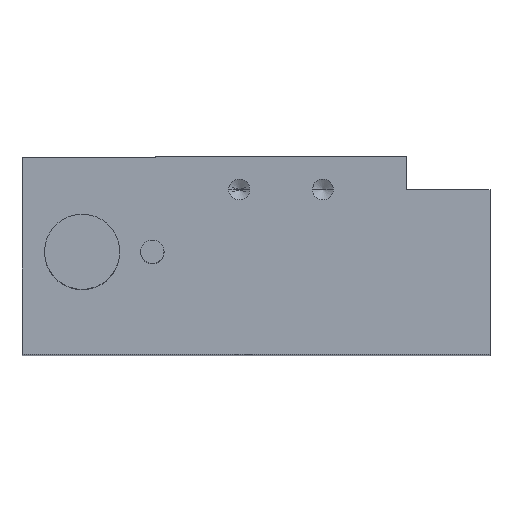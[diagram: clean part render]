
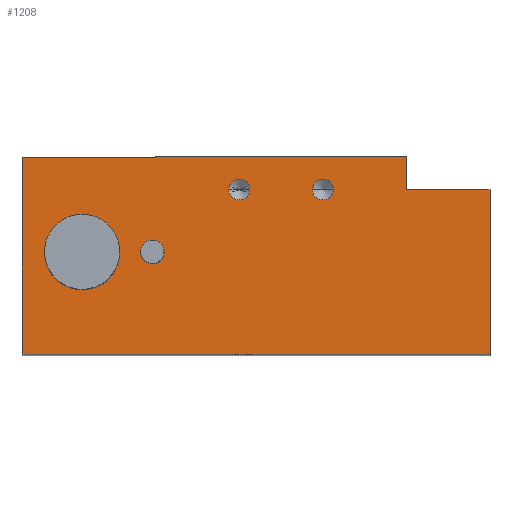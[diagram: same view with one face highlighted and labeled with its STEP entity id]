
A CAD part, top view. The second image highlights one B-rep face of the part: STEP entity #1208.
In plain terms, the highlighted planar face has unit normal (0, 0, 1).
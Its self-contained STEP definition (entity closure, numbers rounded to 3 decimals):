
#5 = EDGE_CURVE ( 'NONE', #1249, #885, #349, .T. ) ;
#8 = VERTEX_POINT ( 'NONE', #13 ) ;
#9 = CARTESIAN_POINT ( 'NONE',  ( 88.647, 639.922, 0. ) ) ;
#13 = CARTESIAN_POINT ( 'NONE',  ( 105.647, 652.122, 0. ) ) ;
#35 = VECTOR ( 'NONE', #75, 1000. ) ;
#40 = DIRECTION ( 'NONE',  ( 1., 0., 0. ) ) ;
#44 = CARTESIAN_POINT ( 'NONE',  ( 114.647, 659.622, 0. ) ) ;
#57 = VERTEX_POINT ( 'NONE', #209 ) ;
#60 = ORIENTED_EDGE ( 'NONE', *, *, #215, .T. ) ;
#75 = DIRECTION ( 'NONE',  ( -1., 0., 0. ) ) ;
#76 = ORIENTED_EDGE ( 'NONE', *, *, #520, .T. ) ;
#82 = CIRCLE ( 'NONE', #507, 1.25 ) ;
#86 = ORIENTED_EDGE ( 'NONE', *, *, #114, .F. ) ;
#91 = VERTEX_POINT ( 'NONE', #668 ) ;
#100 = CARTESIAN_POINT ( 'NONE',  ( 104.647, 663.422, 0. ) ) ;
#107 = CARTESIAN_POINT ( 'NONE',  ( 144.647, 659.622, 0. ) ) ;
#114 = EDGE_CURVE ( 'NONE', #1270, #8, #749, .T. ) ;
#119 = ORIENTED_EDGE ( 'NONE', *, *, #1010, .F. ) ;
#126 = CARTESIAN_POINT ( 'NONE',  ( 134.647, 663.622, 0. ) ) ;
#127 = EDGE_LOOP ( 'NONE', ( #86, #975 ) ) ;
#128 = CARTESIAN_POINT ( 'NONE',  ( 104.247, 652.122, 0. ) ) ;
#130 = AXIS2_PLACEMENT_3D ( 'NONE', #954, #314, #1047 ) ;
#139 = ORIENTED_EDGE ( 'NONE', *, *, #5, .T. ) ;
#140 = EDGE_CURVE ( 'NONE', #91, #214, #461, .T. ) ;
#142 = PLANE ( 'NONE',  #524 ) ;
#146 = DIRECTION ( 'NONE',  ( 1., 0., 0. ) ) ;
#147 = VERTEX_POINT ( 'NONE', #335 ) ;
#148 = VERTEX_POINT ( 'NONE', #250 ) ;
#152 = CARTESIAN_POINT ( 'NONE',  ( 88.647, 639.922, 0. ) ) ;
#175 = CARTESIAN_POINT ( 'NONE',  ( 144.647, 639.922, 0. ) ) ;
#193 = FACE_OUTER_BOUND ( 'NONE', #200, .T. ) ;
#200 = EDGE_LOOP ( 'NONE', ( #282, #60, #212, #910, #339, #76, #942, #139 ) ) ;
#209 = CARTESIAN_POINT ( 'NONE',  ( 91.347, 652.122, 0. ) ) ;
#212 = ORIENTED_EDGE ( 'NONE', *, *, #1252, .T. ) ;
#214 = VERTEX_POINT ( 'NONE', #919 ) ;
#215 = EDGE_CURVE ( 'NONE', #148, #644, #233, .T. ) ;
#226 = FACE_BOUND ( 'NONE', #127, .T. ) ;
#229 = CARTESIAN_POINT ( 'NONE',  ( 113.397, 659.622, 0. ) ) ;
#231 = DIRECTION ( 'NONE',  ( 1., 0., 0. ) ) ;
#233 = LINE ( 'NONE', #1120, #35 ) ;
#238 = DIRECTION ( 'NONE',  ( 0., 0., 1. ) ) ;
#250 = CARTESIAN_POINT ( 'NONE',  ( 144.647, 659.622, 0. ) ) ;
#254 = DIRECTION ( 'NONE',  ( 1., 0., 0. ) ) ;
#272 = VERTEX_POINT ( 'NONE', #933 ) ;
#282 = ORIENTED_EDGE ( 'NONE', *, *, #452, .T. ) ;
#284 = VECTOR ( 'NONE', #1097, 1000. ) ;
#308 = CARTESIAN_POINT ( 'NONE',  ( 88.647, 663.422, 0. ) ) ;
#311 = VECTOR ( 'NONE', #575, 1000. ) ;
#312 = AXIS2_PLACEMENT_3D ( 'NONE', #1298, #666, #40 ) ;
#314 = DIRECTION ( 'NONE',  ( 0., 0., 1. ) ) ;
#325 = CIRCLE ( 'NONE', #577, 1.25 ) ;
#335 = CARTESIAN_POINT ( 'NONE',  ( 115.897, 659.622, 0. ) ) ;
#336 = CARTESIAN_POINT ( 'NONE',  ( 104.647, 663.422, 0. ) ) ;
#339 = ORIENTED_EDGE ( 'NONE', *, *, #890, .T. ) ;
#341 = LINE ( 'NONE', #1098, #311 ) ;
#349 = LINE ( 'NONE', #9, #284 ) ;
#353 = DIRECTION ( 'NONE',  ( 1., 0., 0. ) ) ;
#362 = DIRECTION ( 'NONE',  ( 0., 0., 1. ) ) ;
#386 = ORIENTED_EDGE ( 'NONE', *, *, #1201, .F. ) ;
#411 = CARTESIAN_POINT ( 'NONE',  ( 88.647, 663.422, 0. ) ) ;
#420 = DIRECTION ( 'NONE',  ( 1., 0., 0. ) ) ;
#439 = DIRECTION ( 'NONE',  ( -1., 0., 0. ) ) ;
#440 = FACE_BOUND ( 'NONE', #518, .T. ) ;
#452 = EDGE_CURVE ( 'NONE', #885, #148, #1028, .T. ) ;
#456 = ORIENTED_EDGE ( 'NONE', *, *, #675, .F. ) ;
#461 = CIRCLE ( 'NONE', #474, 1.25 ) ;
#464 = EDGE_LOOP ( 'NONE', ( #950, #514 ) ) ;
#468 = CARTESIAN_POINT ( 'NONE',  ( 102.847, 652.122, 0. ) ) ;
#474 = AXIS2_PLACEMENT_3D ( 'NONE', #1324, #1100, #420 ) ;
#507 = AXIS2_PLACEMENT_3D ( 'NONE', #44, #788, #146 ) ;
#511 = DIRECTION ( 'NONE',  ( 0., -1., 0. ) ) ;
#513 = VECTOR ( 'NONE', #439, 1000. ) ;
#514 = ORIENTED_EDGE ( 'NONE', *, *, #140, .F. ) ;
#518 = EDGE_LOOP ( 'NONE', ( #119, #386 ) ) ;
#520 = EDGE_CURVE ( 'NONE', #956, #908, #1257, .T. ) ;
#524 = AXIS2_PLACEMENT_3D ( 'NONE', #1082, #888, #254 ) ;
#532 = DIRECTION ( 'NONE',  ( 0., 0., 1. ) ) ;
#555 = AXIS2_PLACEMENT_3D ( 'NONE', #1156, #532, #1266 ) ;
#569 = CIRCLE ( 'NONE', #1045, 1.4 ) ;
#575 = DIRECTION ( 'NONE',  ( 0., 1., 0. ) ) ;
#577 = AXIS2_PLACEMENT_3D ( 'NONE', #995, #362, #1091 ) ;
#589 = CARTESIAN_POINT ( 'NONE',  ( 104.647, 663.622, 0. ) ) ;
#608 = VERTEX_POINT ( 'NONE', #1080 ) ;
#610 = EDGE_LOOP ( 'NONE', ( #456, #786 ) ) ;
#644 = VERTEX_POINT ( 'NONE', #1083 ) ;
#666 = DIRECTION ( 'NONE',  ( 0., 0., 1. ) ) ;
#668 = CARTESIAN_POINT ( 'NONE',  ( 123.397, 659.622, 0. ) ) ;
#674 = EDGE_CURVE ( 'NONE', #1089, #147, #82, .T. ) ;
#675 = EDGE_CURVE ( 'NONE', #147, #1089, #325, .T. ) ;
#727 = CIRCLE ( 'NONE', #312, 4.5 ) ;
#749 = CIRCLE ( 'NONE', #1106, 1.4 ) ;
#762 = FACE_BOUND ( 'NONE', #610, .T. ) ;
#776 = CIRCLE ( 'NONE', #130, 1.25 ) ;
#786 = ORIENTED_EDGE ( 'NONE', *, *, #674, .F. ) ;
#788 = DIRECTION ( 'NONE',  ( 0., 0., 1. ) ) ;
#815 = CIRCLE ( 'NONE', #555, 4.5 ) ;
#816 = EDGE_CURVE ( 'NONE', #1073, #272, #1065, .T. ) ;
#850 = DIRECTION ( 'NONE',  ( 0., 1., 0. ) ) ;
#871 = DIRECTION ( 'NONE',  ( 0., 0., 1. ) ) ;
#885 = VERTEX_POINT ( 'NONE', #175 ) ;
#888 = DIRECTION ( 'NONE',  ( 0., 0., 1. ) ) ;
#890 = EDGE_CURVE ( 'NONE', #272, #956, #1306, .T. ) ;
#908 = VERTEX_POINT ( 'NONE', #308 ) ;
#910 = ORIENTED_EDGE ( 'NONE', *, *, #816, .T. ) ;
#917 = EDGE_CURVE ( 'NONE', #908, #1249, #947, .T. ) ;
#919 = CARTESIAN_POINT ( 'NONE',  ( 125.897, 659.622, 0. ) ) ;
#933 = CARTESIAN_POINT ( 'NONE',  ( 104.647, 663.622, 0. ) ) ;
#942 = ORIENTED_EDGE ( 'NONE', *, *, #917, .T. ) ;
#947 = LINE ( 'NONE', #411, #1048 ) ;
#950 = ORIENTED_EDGE ( 'NONE', *, *, #973, .F. ) ;
#954 = CARTESIAN_POINT ( 'NONE',  ( 124.647, 659.622, 0. ) ) ;
#956 = VERTEX_POINT ( 'NONE', #100 ) ;
#968 = VECTOR ( 'NONE', #850, 1000. ) ;
#973 = EDGE_CURVE ( 'NONE', #214, #91, #776, .T. ) ;
#975 = ORIENTED_EDGE ( 'NONE', *, *, #1096, .F. ) ;
#995 = CARTESIAN_POINT ( 'NONE',  ( 114.647, 659.622, 0. ) ) ;
#1010 = EDGE_CURVE ( 'NONE', #57, #608, #815, .T. ) ;
#1028 = LINE ( 'NONE', #107, #968 ) ;
#1029 = VECTOR ( 'NONE', #1325, 1000. ) ;
#1042 = DIRECTION ( 'NONE',  ( 0., -1., 0. ) ) ;
#1045 = AXIS2_PLACEMENT_3D ( 'NONE', #128, #871, #231 ) ;
#1047 = DIRECTION ( 'NONE',  ( 1., 0., 0. ) ) ;
#1048 = VECTOR ( 'NONE', #1042, 1000. ) ;
#1065 = LINE ( 'NONE', #589, #1029 ) ;
#1073 = VERTEX_POINT ( 'NONE', #126 ) ;
#1080 = CARTESIAN_POINT ( 'NONE',  ( 100.347, 652.122, 0. ) ) ;
#1082 = CARTESIAN_POINT ( 'NONE',  ( 144.647, 639.922, 0. ) ) ;
#1083 = CARTESIAN_POINT ( 'NONE',  ( 134.647, 659.622, 0. ) ) ;
#1089 = VERTEX_POINT ( 'NONE', #229 ) ;
#1091 = DIRECTION ( 'NONE',  ( 1., 0., 0. ) ) ;
#1096 = EDGE_CURVE ( 'NONE', #8, #1270, #569, .T. ) ;
#1097 = DIRECTION ( 'NONE',  ( 1., 0., 0. ) ) ;
#1098 = CARTESIAN_POINT ( 'NONE',  ( 134.647, 663.622, 0. ) ) ;
#1100 = DIRECTION ( 'NONE',  ( 0., 0., 1. ) ) ;
#1106 = AXIS2_PLACEMENT_3D ( 'NONE', #1231, #238, #353 ) ;
#1120 = CARTESIAN_POINT ( 'NONE',  ( 134.647, 659.622, 0. ) ) ;
#1125 = CARTESIAN_POINT ( 'NONE',  ( 104.647, 663.622, 0. ) ) ;
#1156 = CARTESIAN_POINT ( 'NONE',  ( 95.847, 652.122, 0. ) ) ;
#1186 = VECTOR ( 'NONE', #511, 1000. ) ;
#1201 = EDGE_CURVE ( 'NONE', #608, #57, #727, .T. ) ;
#1208 = ADVANCED_FACE ( 'NONE', ( #226, #440, #762, #1251, #193 ), #142, .T. ) ;
#1231 = CARTESIAN_POINT ( 'NONE',  ( 104.247, 652.122, 0. ) ) ;
#1249 = VERTEX_POINT ( 'NONE', #152 ) ;
#1251 = FACE_BOUND ( 'NONE', #464, .T. ) ;
#1252 = EDGE_CURVE ( 'NONE', #644, #1073, #341, .T. ) ;
#1257 = LINE ( 'NONE', #336, #513 ) ;
#1266 = DIRECTION ( 'NONE',  ( 1., 0., 0. ) ) ;
#1270 = VERTEX_POINT ( 'NONE', #468 ) ;
#1298 = CARTESIAN_POINT ( 'NONE',  ( 95.847, 652.122, 0. ) ) ;
#1306 = LINE ( 'NONE', #1125, #1186 ) ;
#1324 = CARTESIAN_POINT ( 'NONE',  ( 124.647, 659.622, 0. ) ) ;
#1325 = DIRECTION ( 'NONE',  ( -1., 0., 0. ) ) ;
